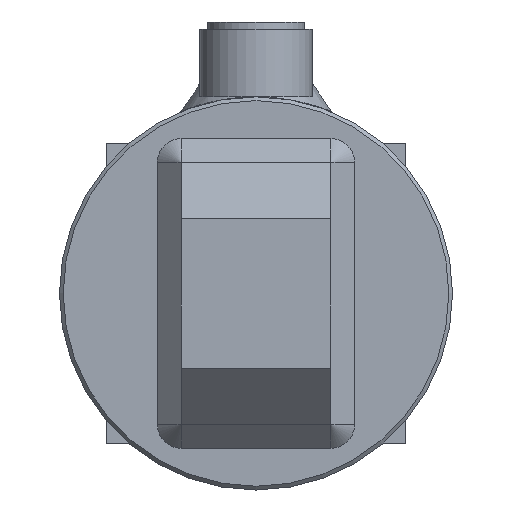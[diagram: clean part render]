
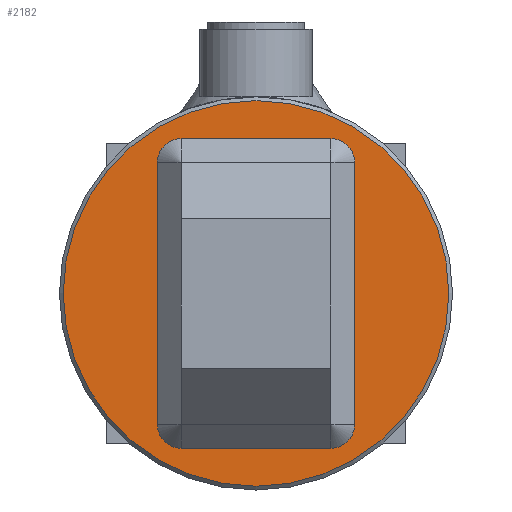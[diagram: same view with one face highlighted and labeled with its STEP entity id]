
A CAD part, left-side view. The second image highlights one B-rep face of the part: STEP entity #2182.
In plain terms, the highlighted planar face has unit normal (-1, 0, 0).
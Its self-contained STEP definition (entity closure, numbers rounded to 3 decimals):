
#2182 = ADVANCED_FACE( '', ( #4610 ), #4611, .T. );
#4610 = FACE_OUTER_BOUND( '', #6063, .T. );
#4611 = PLANE( '', #6064 );
#6063 = EDGE_LOOP( '', ( #6661 ) );
#6064 = AXIS2_PLACEMENT_3D( '', #6662, #6663, #6664 );
#6661 = ORIENTED_EDGE( '', *, *, #7556, .T. );
#6662 = CARTESIAN_POINT( '', ( -15., 0., 0. ) );
#6663 = DIRECTION( '', ( -1., 0., 0. ) );
#6664 = DIRECTION( '', ( 0., -1., 0. ) );
#7556 = EDGE_CURVE( '', #9232, #9232, #9233, .T. );
#9232 = VERTEX_POINT( '', #9880 );
#9233 = CIRCLE( '', #9881, 51.5 );
#9880 = CARTESIAN_POINT( '', ( -15., -51.5, 0. ) );
#9881 = AXIS2_PLACEMENT_3D( '', #9986, #9987, #9988 );
#9986 = CARTESIAN_POINT( '', ( -15., 0., 0. ) );
#9987 = DIRECTION( '', ( -1., 0., 0. ) );
#9988 = DIRECTION( '', ( 0., -1., 0. ) );
